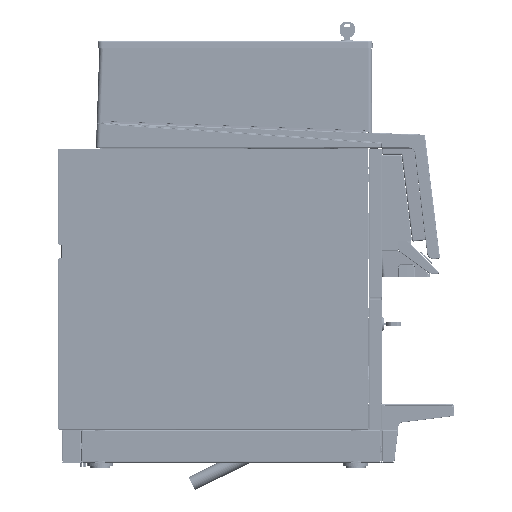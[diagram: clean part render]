
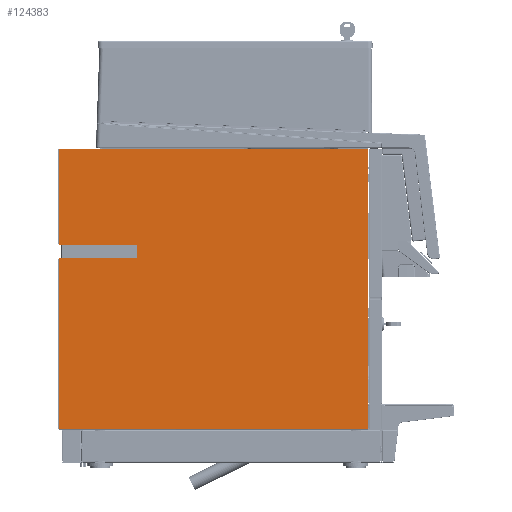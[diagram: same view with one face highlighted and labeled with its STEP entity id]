
A CAD part, left-side view. The second image highlights one B-rep face of the part: STEP entity #124383.
In plain terms, the highlighted planar face has unit normal (-1, 0, 0).
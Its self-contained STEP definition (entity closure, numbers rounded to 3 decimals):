
#9413=LINE('',#216191,#21576);
#9414=LINE('',#216194,#21577);
#9415=LINE('',#216196,#21578);
#9416=LINE('',#216198,#21579);
#9417=LINE('',#216200,#21580);
#9418=LINE('',#216202,#21581);
#9419=LINE('',#216204,#21582);
#9420=LINE('',#216208,#21583);
#9421=LINE('',#216212,#21584);
#9422=LINE('',#216214,#21585);
#21576=VECTOR('',#159866,1000.);
#21577=VECTOR('',#159867,1000.);
#21578=VECTOR('',#159868,1000.);
#21579=VECTOR('',#159869,1000.);
#21580=VECTOR('',#159870,1000.);
#21581=VECTOR('',#159871,1000.);
#21582=VECTOR('',#159872,1000.);
#21583=VECTOR('',#159875,1000.);
#21584=VECTOR('',#159878,1000.);
#21585=VECTOR('',#159879,1000.);
#42841=ORIENTED_EDGE('',*,*,#70471,.F.);
#42842=ORIENTED_EDGE('',*,*,#70472,.F.);
#42843=ORIENTED_EDGE('',*,*,#70473,.F.);
#42844=ORIENTED_EDGE('',*,*,#70474,.F.);
#42845=ORIENTED_EDGE('',*,*,#70475,.F.);
#42846=ORIENTED_EDGE('',*,*,#70476,.T.);
#42847=ORIENTED_EDGE('',*,*,#70477,.T.);
#42848=ORIENTED_EDGE('',*,*,#70478,.F.);
#42849=ORIENTED_EDGE('',*,*,#70479,.T.);
#42850=ORIENTED_EDGE('',*,*,#70480,.F.);
#42851=ORIENTED_EDGE('',*,*,#70481,.T.);
#42852=ORIENTED_EDGE('',*,*,#70482,.T.);
#70471=EDGE_CURVE('',#105957,#105958,#9413,.T.);
#70472=EDGE_CURVE('',#105959,#105957,#9414,.T.);
#70473=EDGE_CURVE('',#105960,#105959,#9415,.T.);
#70474=EDGE_CURVE('',#105961,#105960,#9416,.T.);
#70475=EDGE_CURVE('',#105962,#105961,#9417,.T.);
#70476=EDGE_CURVE('',#105962,#105963,#9418,.T.);
#70477=EDGE_CURVE('',#105963,#105964,#9419,.T.);
#70478=EDGE_CURVE('',#105965,#105964,#86094,.T.);
#70479=EDGE_CURVE('',#105965,#105966,#9420,.T.);
#70480=EDGE_CURVE('',#105967,#105966,#86095,.T.);
#70481=EDGE_CURVE('',#105967,#105968,#9421,.T.);
#70482=EDGE_CURVE('',#105968,#105958,#9422,.T.);
#86094=CIRCLE('',#139210,0.5);
#86095=CIRCLE('',#139211,0.5);
#92212=EDGE_LOOP('',(#42841,#42842,#42843,#42844,#42845,#42846,#42847,#42848,
#42849,#42850,#42851,#42852));
#96222=PLANE('',#139209);
#105957=VERTEX_POINT('',#216192);
#105958=VERTEX_POINT('',#216193);
#105959=VERTEX_POINT('',#216195);
#105960=VERTEX_POINT('',#216197);
#105961=VERTEX_POINT('',#216199);
#105962=VERTEX_POINT('',#216201);
#105963=VERTEX_POINT('',#216203);
#105964=VERTEX_POINT('',#216205);
#105965=VERTEX_POINT('',#216207);
#105966=VERTEX_POINT('',#216209);
#105967=VERTEX_POINT('',#216211);
#105968=VERTEX_POINT('',#216213);
#119110=FACE_BOUND('',#92212,.T.);
#124383=ADVANCED_FACE('',(#119110),#96222,.T.);
#139209=AXIS2_PLACEMENT_3D('',#216190,#159864,#159865);
#139210=AXIS2_PLACEMENT_3D('',#216206,#159873,#159874);
#139211=AXIS2_PLACEMENT_3D('',#216210,#159876,#159877);
#159864=DIRECTION('',(-1.,0.,0.));
#159865=DIRECTION('',(0.,0.,1.));
#159866=DIRECTION('',(0.,0.,1.));
#159867=DIRECTION('',(0.,1.,0.));
#159868=DIRECTION('',(0.,0.,-1.));
#159869=DIRECTION('',(0.,-1.,0.));
#159870=DIRECTION('',(0.,0.,1.));
#159871=DIRECTION('',(0.,0.,-1.));
#159872=DIRECTION('',(0.,-1.,0.));
#159873=DIRECTION('',(-1.,0.,0.));
#159874=DIRECTION('',(0.,-0.707,0.707));
#159875=DIRECTION('',(0.,0.,-1.));
#159876=DIRECTION('',(-1.,0.,0.));
#159877=DIRECTION('',(0.,-0.707,-0.707));
#159878=DIRECTION('',(0.,1.,0.));
#159879=DIRECTION('',(0.,0.,-1.));
#216190=CARTESIAN_POINT('',(-160.,113.464,-14.186));
#216191=CARTESIAN_POINT('',(-160.,582.264,-12.986));
#216192=CARTESIAN_POINT('',(-160.,582.264,-12.986));
#216193=CARTESIAN_POINT('',(-160.,582.264,244.614));
#216194=CARTESIAN_POINT('',(-160.,114.664,-12.986));
#216195=CARTESIAN_POINT('',(-160.,114.664,-12.986));
#216196=CARTESIAN_POINT('',(-160.,114.664,410.614));
#216197=CARTESIAN_POINT('',(-160.,114.664,410.614));
#216198=CARTESIAN_POINT('',(-160.,582.264,410.614));
#216199=CARTESIAN_POINT('',(-160.,582.264,410.614));
#216200=CARTESIAN_POINT('',(-160.,582.264,267.014));
#216201=CARTESIAN_POINT('',(-160.,582.264,267.014));
#216202=CARTESIAN_POINT('',(-160.,582.264,267.014));
#216203=CARTESIAN_POINT('',(-160.,582.264,265.814));
#216204=CARTESIAN_POINT('',(-160.,582.264,265.814));
#216205=CARTESIAN_POINT('',(-160.,463.964,265.814));
#216206=CARTESIAN_POINT('',(-160.,463.964,265.314));
#216207=CARTESIAN_POINT('',(-160.,463.464,265.314));
#216208=CARTESIAN_POINT('',(-160.,463.464,265.314));
#216209=CARTESIAN_POINT('',(-160.,463.464,246.314));
#216210=CARTESIAN_POINT('',(-160.,463.964,246.314));
#216211=CARTESIAN_POINT('',(-160.,463.964,245.814));
#216212=CARTESIAN_POINT('',(-160.,463.964,245.814));
#216213=CARTESIAN_POINT('',(-160.,582.264,245.814));
#216214=CARTESIAN_POINT('',(-160.,582.264,245.814));
